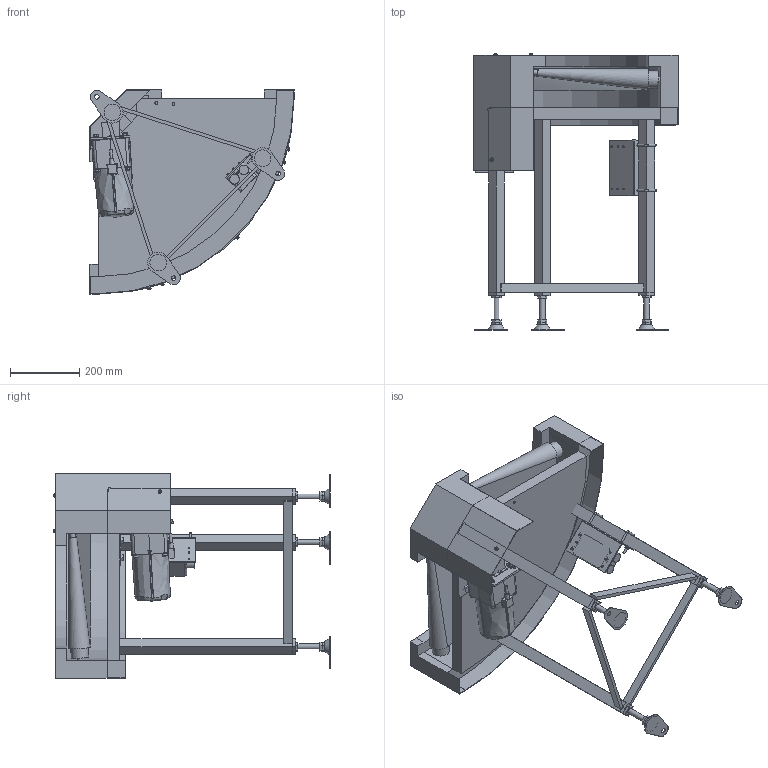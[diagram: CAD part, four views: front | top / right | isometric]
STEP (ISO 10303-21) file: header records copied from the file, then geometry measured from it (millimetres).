
FILE_DESCRIPTION( (''), '2;1');
FILE_NAME ('WEB-FBC-309-300-90°-L-K-60.stp','2025-10-17T09:58:40',(''),(''),'spGate 20.6.2 (****-****-****-****)','','');
FILE_SCHEMA (('AUTOMOTIVE_DESIGN'));
Length unit declared in the file: millimetre
Products named in the file (46): WEB-FBC-309-300-90_-L-K-60; TEMP_X_T-prt0; TEMP_X_T-prt1; TEMP_X_T-prt2; TEMP_X_T-prt3; TEMP_X_T-prt4; TEMP_X_T-prt5; TEMP_X_T-prt6; TEMP_X_T-prt7; TEMP_X_T-prt8; TEMP_X_T-prt9; TEMP_X_T-prt10; TEMP_X_T-prt11; TEMP_X_T-prt12; TEMP_X_T-prt13; TEMP_X_T-prt14; TEMP_X_T-prt15; TEMP_X_T-prt16; TEMP_X_T-prt17; TEMP_X_T-prt18; TEMP_X_T-prt19; TEMP_X_T-prt20; TEMP_X_T-prt21; TEMP_X_T-prt22; TEMP_X_T-prt23; TEMP_X_T-prt24; TEMP_X_T-prt25; TEMP_X_T-prt26; TEMP_X_T-prt27; TEMP_X_T-prt28; TEMP_X_T-prt29; TEMP_X_T-prt30; TEMP_X_T-prt31; TEMP_X_T-prt32; TEMP_X_T-prt33; TEMP_X_T-prt34; TEMP_X_T-prt35; TEMP_X_T-prt36; TEMP_X_T-prt37; TEMP_X_T-prt38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
Assembly tree (45 placements, depth 2):
  WEB-FBC-309-300-90_-L-K-60
    TEMP_X_T-prt0
    TEMP_X_T-prt1
    TEMP_X_T-prt2
    TEMP_X_T-prt3
    TEMP_X_T-prt4
    TEMP_X_T-prt5
    TEMP_X_T-prt6
    TEMP_X_T-prt7
    TEMP_X_T-prt8
    TEMP_X_T-prt9
    TEMP_X_T-prt10
    TEMP_X_T-prt11
    TEMP_X_T-prt12
    TEMP_X_T-prt13
    TEMP_X_T-prt14
    TEMP_X_T-prt15
    TEMP_X_T-prt16
    TEMP_X_T-prt17
    TEMP_X_T-prt18
    TEMP_X_T-prt19
    TEMP_X_T-prt20
    TEMP_X_T-prt21
    TEMP_X_T-prt22
    TEMP_X_T-prt23
    TEMP_X_T-prt24
    TEMP_X_T-prt25
    TEMP_X_T-prt26
    TEMP_X_T-prt27
    TEMP_X_T-prt28
    TEMP_X_T-prt29
    TEMP_X_T-prt30
    TEMP_X_T-prt31
    TEMP_X_T-prt32
    TEMP_X_T-prt33
    TEMP_X_T-prt34
    TEMP_X_T-prt35
    TEMP_X_T-prt36
    TEMP_X_T-prt37
    TEMP_X_T-prt38
    TEMP_X_T-prt39
    TEMP_X_T-prt40
    TEMP_X_T-prt41
    TEMP_X_T-prt42
    TEMP_X_T-prt43
    TEMP_X_T-prt44
Bounding box: 588 x 796.1 x 588 mm (x, y, z)
Volume: 30158004.6 mm3; surface area: 2633786.3 mm2
Topology: 45 solids, 45 shells, 997 faces, 2530 edges, 1714 vertices
Faces by surface type: plane 644, cylinder 211, bspline 141, sphere 1
Full cylindrical faces by diameter (mm): 5 x14, 5.3 x2, 5.5 x3, 6 x10, 6.8 x3, 7 x4, 7.8 x1, 8 x16, 8.4 x7, 8.5 x4, 9 x8, 9.2 x8, 10 x10, 12.5 x4, 13 x7, 15 x4, 16 x12, 17 x7, 18 x1, 19 x2, 27.8 x3, 42 x1, 50 x2, 94 x1
Entity records: 56768 total; most frequent: CARTESIAN_POINT 11524, ORIENTED_EDGE 5050, DIRECTION 4789, COLOUR_RGB 3567, PRESENTATION_STYLE_ASSIGNMENT 3567, STYLED_ITEM 3567, EDGE_CURVE 2525, DRAUGHTING_PRE_DEFINED_CURVE_FONT 2525
